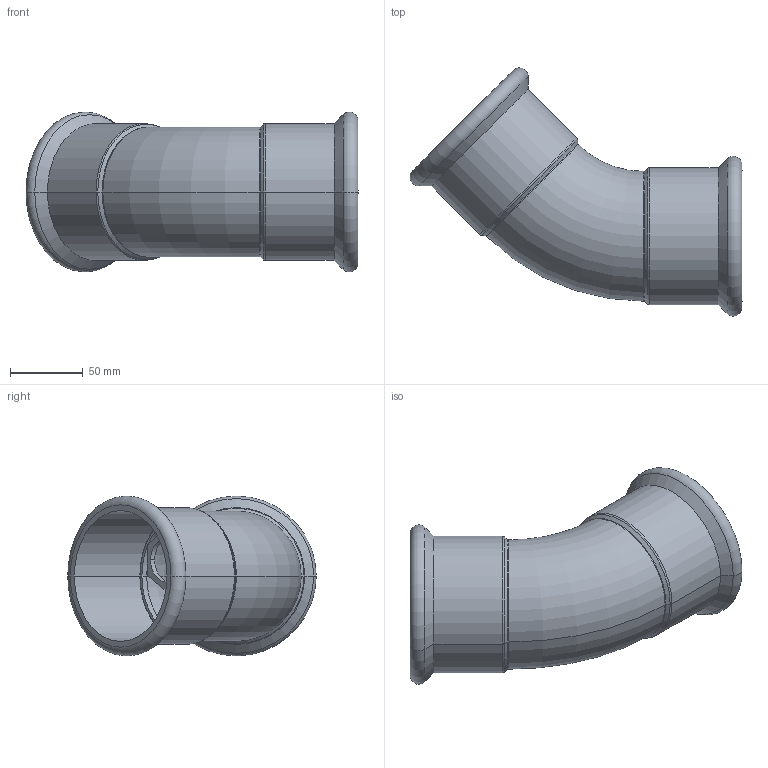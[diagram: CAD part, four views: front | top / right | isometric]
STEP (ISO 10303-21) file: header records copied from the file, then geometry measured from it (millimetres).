
FILE_DESCRIPTION(('OneSpaceDesigner STEP Export'),'2;1');
FILE_NAME('R2712 89x89.stp','2010-06-09T15:48:48',(''),(''),'OneSpace Designer STEP processor for AP214 (Solid Model)','OneSpace Modeling 15.00A 14-Mar-2007 (C) CoCreate Software GmbH','');
FILE_SCHEMA(('AUTOMOTIVE_DESIGN { 1 0 10303 214 1 1 1 1 }'));
Length unit declared in the file: millimetre
Products named in the file (2): R2712_89x89
Assembly tree (1 placements, depth 2):
  R2712_89x89
    R2712_89x89
Bounding box: 227.42 x 170.16 x 109.48 mm (x, y, z)
Volume: 194159.8 mm3; surface area: 144103.7 mm2
Topology: 1 solids, 1 shells, 118 faces, 292 edges, 186 vertices
Faces by surface type: plane 60, cylinder 38, torus 12, cone 8
Entity records: 3085 total; most frequent: ORIENTED_EDGE 584, CARTESIAN_POINT 500, DIRECTION 450, EDGE_CURVE 292, VERTEX_POINT 186, VECTOR 178, LINE 178, EDGE_LOOP 142
